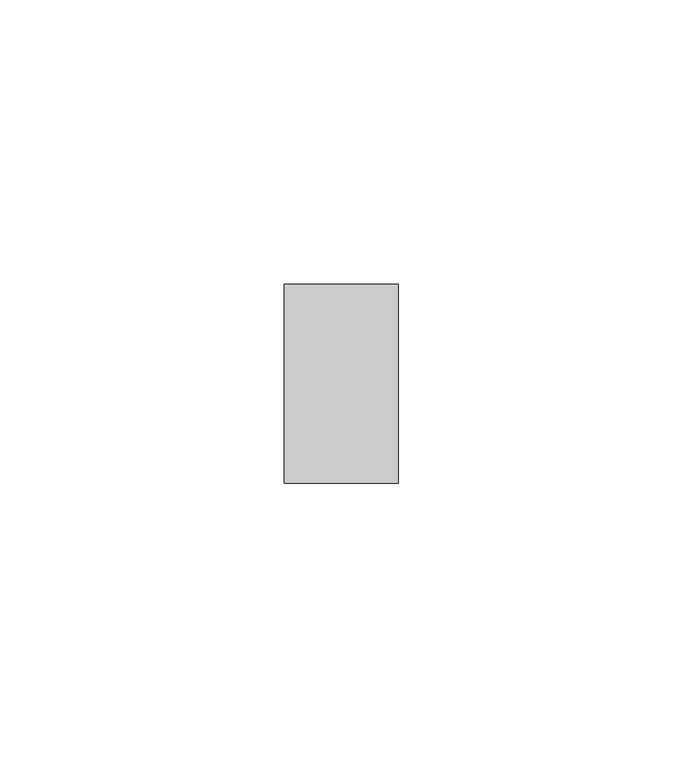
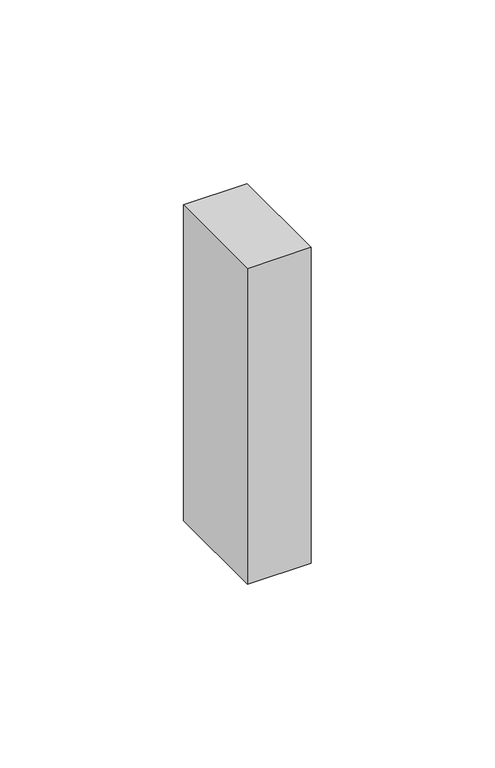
"""IFC4 building model written with IfcOpenShell, lengths in millimetres: duct fitting geometry, Накладка на стык профиля - на защелках - для односекционных кабель-каналов DLP 50х105 - белый : Накладка на стык профиля - на защелках - для односекционных кабель-каналов DLP 50х105 - белый."""

from ifc_helpers import new_model, si_unit, frame, origin, place, context, project, spatial, polyline, outline, extrude, source, transform, mapped, element, save


def duct_fitting_147d1e50(model_context):
    return source(origin(), model_context, "Body", "SweptSolid", [
        extrude(outline(polyline([(19.0, -17.5), (-1.0, -17.5), (-1.0, 17.5), (19.0, 17.5), (19.0, -17.5)])), frame((0.0, 0.0, -51.5), z_axis=(0.0, 0.0, 1.0), x_axis=(1.0, 0.0, 0.0)), (0.0, 0.0, 1.0), 105.0),
    ])


if __name__ == "__main__":
    model = new_model("IFC4")
    model_context = context("Model", 3, world=origin())
    ifc_project = project(units=[si_unit("LENGTHUNIT", "METRE", prefix="MILLI")], contexts=[model_context])
    site = spatial("IfcSite", under=ifc_project)
    building = spatial("IfcBuilding", under=site)
    placement = place(None, origin())
    duct_fitting_shape = duct_fitting_147d1e50(model_context)
    element("IfcDuctFitting", 1, ObjectType="Накладка на стык профиля - на защелках - для односекционных кабель-каналов DLP 50х105 - белый : Накладка на стык профиля - на защелках - для односекционных кабель-каналов DLP 50х105 - белый", at=placement, inside=building, context=model_context, shape_type="MappedRepresentation", body=[
        mapped(duct_fitting_shape, transform((0.0, 0.0, 0.0), x_axis=(1.0, 0.0, 0.0), y_axis=(0.0, 1.0, 0.0), z_axis=(0.0, 0.0, 1.0))),
    ])
    save(model, "model.ifc")
